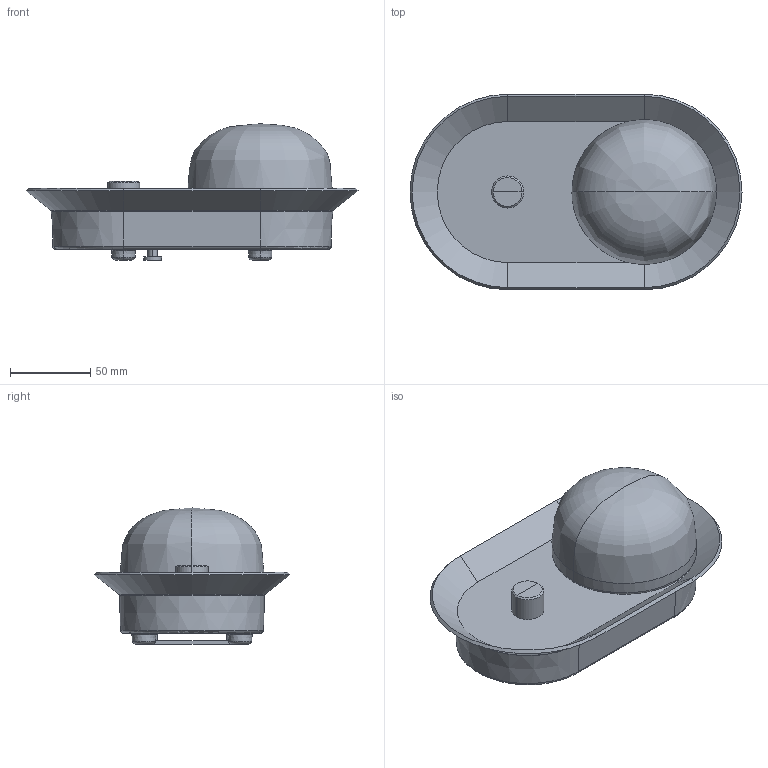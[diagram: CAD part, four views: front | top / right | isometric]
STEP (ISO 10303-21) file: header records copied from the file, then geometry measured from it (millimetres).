
FILE_DESCRIPTION(/* description */ (''),/* implementation_level */ '2;1');
FILE_NAME(/* name */ '40103.step',/* time_stamp */ '2024-05-31T13:33:34+02:00',/* author */ ('RenataManzini'),/* organization */ (''),/* preprocessor_version */ 'ST-DEVELOPER v20',/* originating_system */ 'AutoCAD Mechanical',/* authorisation */ '');
FILE_SCHEMA (('AUTOMOTIVE_DESIGN { 1 0 10303 214 3 1 1 }'));
Length unit declared in the file: millimetre
Products named in the file (2): Product; maya - lamp-720260-_3D_
Assembly tree (1 placements, depth 2):
  Product
    maya - lamp-720260-_3D_
Bounding box: 206.95 x 121.95 x 85.03 mm (x, y, z)
Volume: 462384.8 mm3; surface area: 104829.7 mm2
Topology: 4 solids, 5 shells, 120 faces, 269 edges, 167 vertices
Faces by surface type: plane 40, cylinder 32, torus 24, cone 20, bspline 4
Entity records: 6246 total; most frequent: CARTESIAN_POINT 3686, ORIENTED_EDGE 524, DIRECTION 478, EDGE_CURVE 262, AXIS2_PLACEMENT_3D 194, VERTEX_POINT 162, EDGE_LOOP 134, FACE_OUTER_BOUND 120
